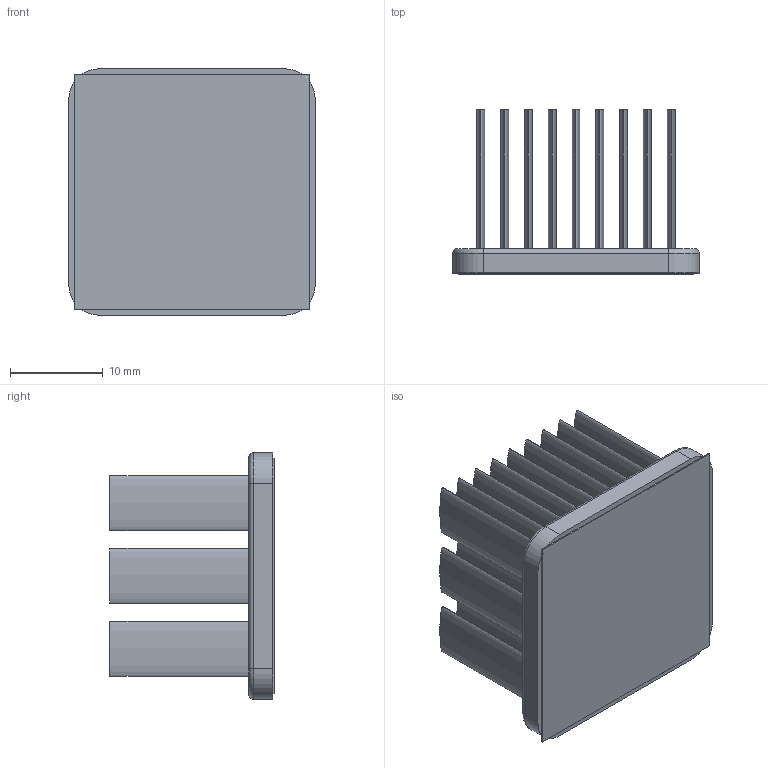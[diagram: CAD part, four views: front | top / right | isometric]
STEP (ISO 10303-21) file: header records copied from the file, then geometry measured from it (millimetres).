
FILE_DESCRIPTION (( 'STEP AP214' ), '1' );
FILE_NAME ('INM27001-18W_2.6 (NONE).STEP', '2023-02-17T18:19:57', ( '' ), ( '' ), 'SwSTEP 2.0', 'SolidWorks 2020', '' );
FILE_SCHEMA (( 'AUTOMOTIVE_DESIGN' ));
Length unit declared in the file: inch
Products named in the file (1): INM27001-18W_2.6 (NONE)
Bounding box: 26.6 x 17.73 x 26.6 mm (x, y, z)
Volume: 3531.5 mm3; surface area: 7917.9 mm2
Topology: 2 solids, 2 shells, 105 faces, 214 edges, 140 vertices
Faces by surface type: bspline 54, plane 39, cylinder 8, torus 4
Entity records: 4282 total; most frequent: CARTESIAN_POINT 1162, ORIENTED_EDGE 428, DIRECTION 230, EDGE_CURVE 214, VERTEX_POINT 140, EDGE_LOOP 132, UNCERTAINTY_MEASURE_WITH_UNIT 109, DIMENSIONAL_EXPONENTS 109
